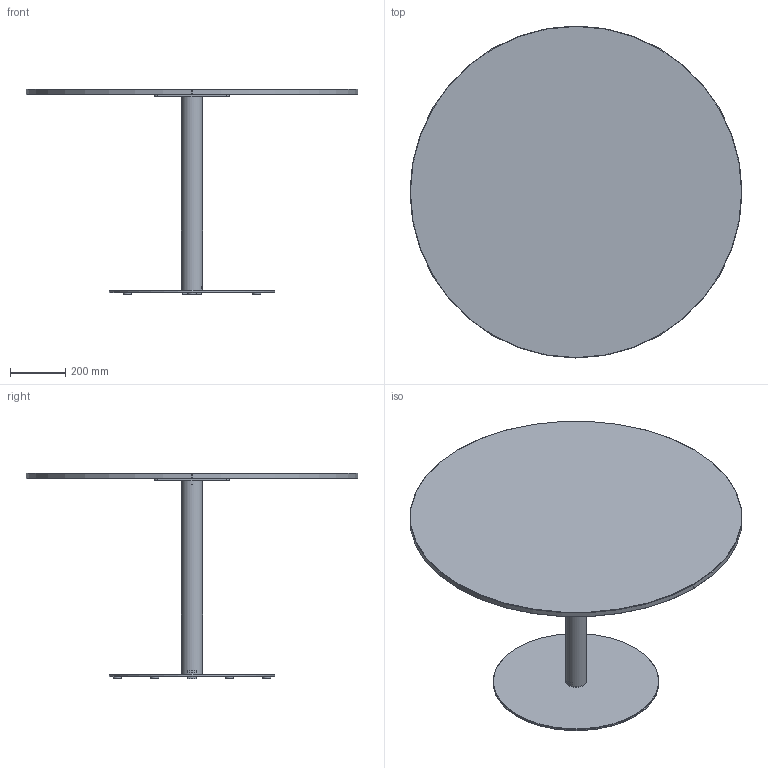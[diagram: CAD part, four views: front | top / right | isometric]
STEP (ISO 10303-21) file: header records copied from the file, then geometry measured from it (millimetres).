
FILE_DESCRIPTION( ('This file contains a STEP AP42 implementation' ,'as created by ZW3D STEP Interface translator.') ,'2;1' );
FILE_NAME( 'Henri - B_Rond - F1 - M1 - 1200 x 1200 x 750.stp' ,'24 912.15 926', (''), ('ZWCAD Software Co.'), 'Version 1.0', 'ZW3D to STEP translator', '' );
FILE_SCHEMA(('AUTOMOTIVE_DESIGN { 1 0 10303 214 1 1 1 1 }'));
Length unit declared in the file: millimetre
Products named in the file (14): 0; PIED BISTROT PARAMETRIQUE_; COLONNE ACIER Ø76 V.02_; TUB-D076-02_; PLA-R76B-01_; CROIX ACIER 370 V.02_; CRX-X370-02_; SOCLE ACIER C Ø600 V.02_; SCL-D600-02_; PLA-R30A-01_; PLA-R30A-01; WUERTH 0276063020 Euro-screw 6.3x2 Verzinkt_; PLATEAU BISTROT PARAMETRIQUE_; insert_m6_13_
Assembly tree (24 placements, depth 3):
  0
  PIED BISTROT PARAMETRIQUE_
    COLONNE ACIER Ø76 V.02_
      TUB-D076-02_
      PLA-R76B-01_  x2
    CROIX ACIER 370 V.02_
      CRX-X370-02_
    SOCLE ACIER C Ø600 V.02_
      SCL-D600-02_
      PLA-R30A-01_
      PLA-R30A-01  x5
    WUERTH 0276063020 Euro-screw 6.3x2 Verzinkt_
    PLATEAU BISTROT PARAMETRIQUE_
      insert_m6_13_  x8
Bounding box: 1200 x 1200 x 744 mm (x, y, z)
Volume: 25832188.6 mm3; surface area: 3436838 mm2
Topology: 21 solids, 21 shells, 524 faces, 1273 edges, 802 vertices
Faces by surface type: plane 254, bspline 121, cylinder 99, cone 49, torus 1
Full cylindrical faces by diameter (mm): 4.88 x1, 6 x8, 6.3 x1, 8 x47, 12 x2, 14 x2, 30 x6, 72 x1, 76 x1, 600 x1
Entity records: 11734 total; most frequent: CARTESIAN_POINT 3302, ORIENTED_EDGE 1526, DIRECTION 1424, EDGE_CURVE 763, VERTEX_POINT 490, VECTOR 476, LINE 476, AXIS2_PLACEMENT_3D 474
